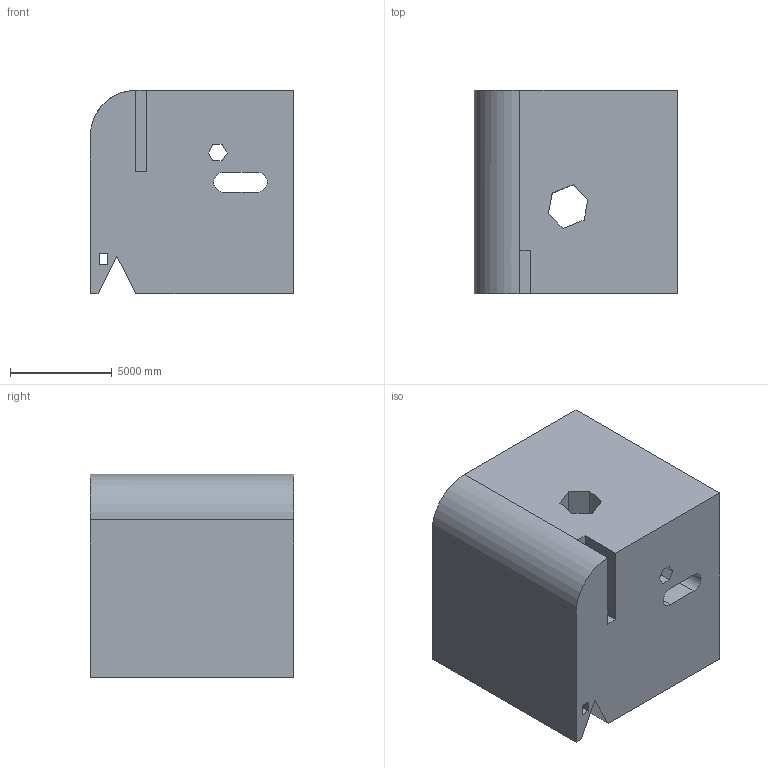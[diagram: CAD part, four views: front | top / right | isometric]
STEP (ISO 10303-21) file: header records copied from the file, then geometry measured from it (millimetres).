
FILE_DESCRIPTION (( 'STEP AP203' ), '1' );
FILE_NAME ('172.STEP', '2022-09-06T13:31:58', ( 'user' ), ( '' ), 'SwSTEP 2.0', 'SolidWorks 2021', '' );
FILE_SCHEMA (( 'CONFIG_CONTROL_DESIGN' ));
Length unit declared in the file: centimetre
Products named in the file (1): 172
Bounding box: 10000 x 10000 x 10000 mm (x, y, z)
Volume: 903824375443 mm3; surface area: 800133316.7 mm2
Topology: 1 solids, 1 shells, 41 faces, 114 edges, 76 vertices
Faces by surface type: plane 38, cylinder 3
Entity records: 1388 total; most frequent: CARTESIAN_POINT 232, ORIENTED_EDGE 228, DIRECTION 205, EDGE_CURVE 114, VECTOR 107, LINE 107, VERTEX_POINT 76, EDGE_LOOP 50
